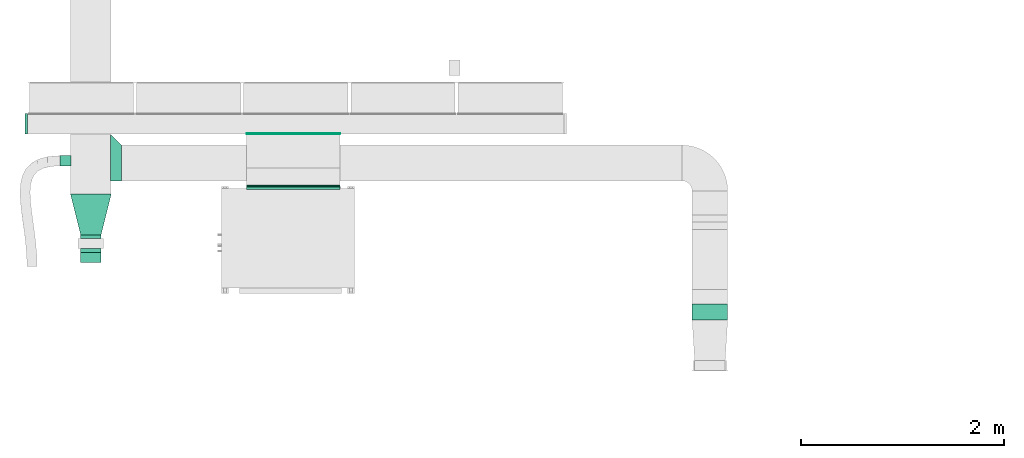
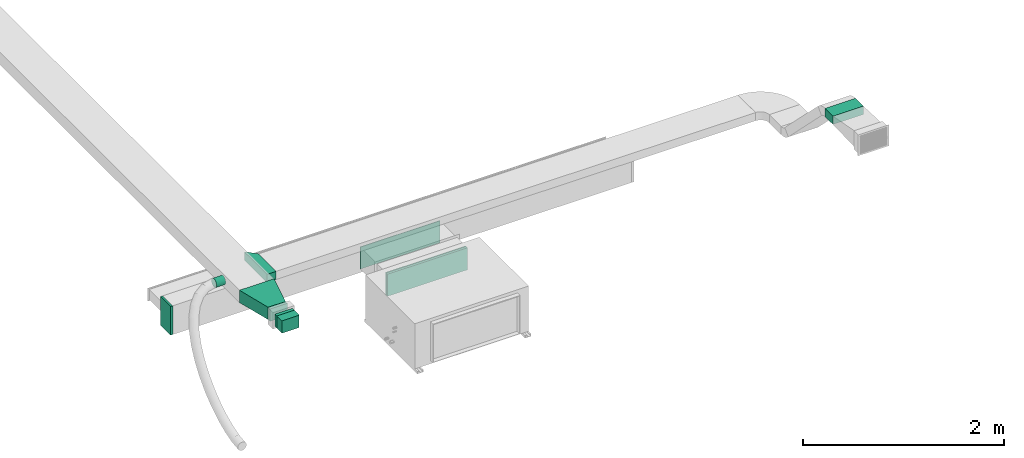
# One storey, part 3 of 15: 6 flow fittings, 4 flow segments, 1 flow terminal.
"""IFC2X3 building model written with IfcOpenShell, lengths in millimetres."""

from ifc_helpers import new_model, entity, si_unit, converted_unit, derived_unit, direction, frame, frame_2d, origin, origin_2d_with_axis, place, context, subcontext, project, spatial, polyline, rectangle, outline, extrude, faceted_brep, source, transform, mapped, material, type_object, type_shapes, element, save


model = new_model("IFC2X3")

# Units and contexts
model_context = context("Model", 3, precision=0.01, world=origin(), true_north=direction((6.123233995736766e-17, 1.0)))
body_context = subcontext(model_context, "Body", "Model", "MODEL_VIEW")
ifc_project = project(units=[si_unit("LENGTHUNIT", "METRE", prefix="MILLI"), converted_unit("PLANEANGLEUNIT", "DEGREE", entity("IfcPlaneAngleMeasure", 0.017453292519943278), si_unit("PLANEANGLEUNIT", "RADIAN"), dimensions=[0, 0, 0, 0, 0, 0, 0]), si_unit("AREAUNIT", "SQUARE_METRE"), derived_unit("THERMALTRANSMITTANCEUNIT", [(si_unit("MASSUNIT", "GRAM", prefix="KILO"), 1), (si_unit("THERMODYNAMICTEMPERATUREUNIT", "KELVIN"), -1), (si_unit("TIMEUNIT", "SECOND"), -3)])], contexts=[model_context])

# Site, building, storey
site_placement = place(None, origin())
site = spatial("IfcSite", under=ifc_project, at=site_placement, Name="Default", CompositionType="ELEMENT")
building_placement = place(site_placement, origin())
building = spatial("IfcBuilding", under=site, at=building_placement, Name="Praça Pedro II, 1301 - Centro (Sul), Teresina - PI, 64001-100", CompositionType="ELEMENT")
storey_placement = place(building_placement, frame((0.0, 0.0, 3020.0)))
storey = spatial("IfcBuildingStorey", under=building, at=storey_placement, Name="1PAV", CompositionType="ELEMENT", Elevation=3020.0)

# Flow segments
duct_segment_type_1 = type_object("IfcDuctSegmentType", Name="Duto retangular:Raios cotovelos / tês", PredefinedType="NOTDEFINED")
flow_segment_1_placement = place(storey_placement, origin())
element("IfcFlowSegment", 1, at=flow_segment_1_placement, inside=storey, type_object=duct_segment_type_1, Name="Duto retangular:Raios cotovelos / tês", ObjectType="Duto retangular:Raios cotovelos / tês", context=body_context, shape_type="SweptSolid", body=[
    extrude(rectangle(XDim=36.5929389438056, YDim=200.0, at=frame_2d((0.0, -5.471179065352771e-13), x_axis=(1.0, 0.0))), frame((6395.350747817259, -67144.26771544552, 1425.0), z_axis=(0.0, 0.0, 1.0), x_axis=(0.0, 1.0, 0.0)), (0.0, 0.0, 1.0), 149.99999999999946),
])
flow_segment_2_placement = place(storey_placement, origin())
element("IfcFlowSegment", 2, at=flow_segment_2_placement, inside=storey, type_object=duct_segment_type_1, Name="Duto retangular:Raios cotovelos / tês", ObjectType="Duto retangular:Raios cotovelos / tês", context=body_context, shape_type="SweptSolid", body=[
    extrude(rectangle(XDim=36.592938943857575, YDim=200.0, at=frame_2d((4.330757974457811e-12, 0.0), x_axis=(1.0, 0.0))), frame((6395.350747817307, -67280.86065438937, 1425.0), z_axis=(0.0, 0.0, 1.0), x_axis=(0.0, 1.0, 0.0)), (0.0, 0.0, 1.0), 150.00000000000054),
])
duct_segment_type_2 = type_object("IfcDuctSegmentType", Name="Duto retangular:Raios cotovelos / torneiras", PredefinedType="NOTDEFINED")
flow_segment_3_placement = place(storey_placement, origin())
element("IfcFlowSegment", 3, at=flow_segment_3_placement, inside=storey, type_object=duct_segment_type_2, Name="Duto retangular:Raios cotovelos / torneiras", ObjectType="Duto retangular:Raios cotovelos / torneiras", context=body_context, shape_type="SweptSolid", body=[
    extrude(rectangle(XDim=157.843638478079, YDim=350.00000000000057, at=frame_2d((4.32720526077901e-12, -1.0800249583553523e-12), x_axis=(1.0, 0.0))), frame((12484.101734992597, -67884.31096207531, 2200.0), z_axis=(0.0, 0.0, 1.0), x_axis=(0.0, -1.0, 0.0)), (0.0, 0.0, 1.0), 99.99999999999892),
])
flow_segment_4_placement = place(storey_placement, origin())
element("IfcFlowSegment", 4, at=flow_segment_4_placement, inside=storey, type_object=duct_segment_type_2, Name="Duto retangular:Raios cotovelos / torneiras", ObjectType="Duto retangular:Raios cotovelos / torneiras", context=body_context, shape_type="SweptSolid", body=[
    extrude(rectangle(XDim=14.99999999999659, YDim=916.9999999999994, at=frame_2d((-8.662848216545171e-12, 0.0), x_axis=(1.0, 0.0))), frame((8386.996797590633, -66646.51222456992, 866.0), z_axis=(0.0, 0.0, 1.0), x_axis=(0.0, 1.0, 0.0)), (0.0, 0.0, 1.0), 267.9999999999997),
])

# Flow fittings
ifc_material = material(Name="<Unnamed>")
duct_fitting_type_1 = type_object("IfcDuctFittingType", Name="M_Tampa retangular:Padrão", PredefinedType="NOTDEFINED", material=ifc_material)
shared_shape_1 = source(origin(), body_context, "Body", "SweptSolid", [
    extrude(rectangle(XDim=24.999999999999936, YDim=200.00000000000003, at=frame_2d((-8.881784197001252e-16, 0.0), x_axis=(1.0, 0.0))), frame((12.500000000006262, 0.0, -175.0)), (0.0, 0.0, 1.0), 350.0),
])
type_shapes(duct_fitting_type_1, [shared_shape_1])
flow_fitting_1_placement = place(storey_placement, frame((5771.54595394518, -66034.01222456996, 1000.0), z_axis=(0.0, 0.0, 1.0), x_axis=(-1.0, 0.0, 0.0)))
element("IfcFlowFitting", 5, at=flow_fitting_1_placement, inside=storey, type_object=duct_fitting_type_1, material=ifc_material, Name="M_Tampa retangular:Padrão", ObjectType="M_Tampa retangular:Padrão", context=body_context, shape_type="MappedRepresentation", body=[
    mapped(shared_shape_1, transform((0.0, 0.0, 0.0), scale=1.0)),
])
duct_fitting_type_2 = type_object("IfcDuctFittingType", Name="M_Encaixe de duto redondo:Padrão", PredefinedType="NOTDEFINED", material=ifc_material)
shared_shape_2 = source(origin(), body_context, "Body", "Brep", [
    faceted_brep([(101.60000000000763, 50.0, 0.0), (101.60000000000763, 48.296291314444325, 12.940952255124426), (101.60000000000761, 43.301270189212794, 25.0), (101.6000000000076, 35.35533905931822, 35.35533905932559), (101.60000000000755, 25.0, 43.30127018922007), (101.60000000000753, 12.94095225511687, 48.29629131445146), (101.6000000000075, 0.0, 50.0), (101.60000000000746, -12.940952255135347, 48.29629131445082), (101.60000000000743, -25.0, 43.30127018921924), (101.6000000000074, -35.35533905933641, 35.355339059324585), (101.60000000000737, -43.301270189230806, 25.0), (101.60000000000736, -48.296291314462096, 12.940952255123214), (101.60000000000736, -50.0, 0.0), (101.60000000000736, -48.29629131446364, -12.94095225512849), (101.60000000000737, -43.301270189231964, -25.0), (101.6000000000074, -35.35533905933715, -35.35533905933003), (101.60000000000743, -25.0, -43.30127018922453), (101.60000000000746, -12.94095225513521, -48.29629131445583), (101.6000000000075, 0.0, -50.0), (101.60000000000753, 12.9409522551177, -48.29629131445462), (101.60000000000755, 25.0, -43.30127018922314), (101.6000000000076, 35.35533905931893, -35.35533905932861), (101.60000000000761, 43.30127018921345, -25.0), (101.60000000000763, 48.2962913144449, -12.940952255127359), (0.0, 12.940952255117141, 48.29629131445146), (-6.0959999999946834, 12.94095225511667, 48.29629131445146), (-6.095999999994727, 0.0, 50.0), (0.0, 0.0, 50.0), (0.0, 25.0, 43.30127018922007), (-6.0959999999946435, 25.0, 43.30127018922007), (0.0, 35.35533905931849, 35.35533905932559), (-6.095999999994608, 35.35533905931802, 35.35533905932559), (0.0, 48.296291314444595, 12.940952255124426), (-6.095999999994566, 48.296291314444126, 12.940952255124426), (-6.095999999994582, 43.3012701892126, 25.0), (0.0, 43.301270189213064, 25.0), (0.0, 50.0, 0.0), (-6.09599999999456, 50.0, 0.0), (0.0, 43.30127018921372, -25.0), (-6.095999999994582, 43.30127018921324, -25.0), (-6.095999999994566, 48.296291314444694, -12.940952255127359), (0.0, 48.29629131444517, -12.940952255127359), (0.0, 35.3553390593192, -35.35533905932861), (-6.095999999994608, 35.35533905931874, -35.35533905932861), (0.0, 12.940952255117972, -48.29629131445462), (-6.0959999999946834, 12.940952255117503, -48.29629131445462), (-6.0959999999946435, 25.0, -43.30127018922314), (0.0, 25.0, -43.30127018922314), (0.0, 0.0, -50.0), (-6.095999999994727, 0.0, -50.0), (0.0, -12.940952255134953, -48.29629131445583), (-6.09599999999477, -12.940952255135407, -48.29629131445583), (0.0, -25.0, -43.30127018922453), (-6.0959999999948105, -25.0, -43.30127018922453), (0.0, -35.35533905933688, -35.35533905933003), (-6.095999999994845, -35.355339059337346, -35.35533905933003), (0.0, -48.29629131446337, -12.94095225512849), (-6.095999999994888, -48.29629131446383, -12.94095225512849), (-6.095999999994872, -43.30127018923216, -25.0), (0.0, -43.301270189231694, -25.0), (0.0, -50.0, 0.0), (-6.095999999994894, -50.0, 0.0), (0.0, -48.296291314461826, 12.940952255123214), (-6.095999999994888, -48.296291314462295, 12.940952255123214), (0.0, -43.30127018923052, 25.0), (-6.095999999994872, -43.301270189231, 25.0), (0.0, -35.35533905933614, 35.355339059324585), (-6.095999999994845, -35.35533905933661, 35.355339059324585), (0.0, -12.940952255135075, 48.29629131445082), (-6.09599999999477, -12.940952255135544, 48.29629131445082), (-6.0959999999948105, -25.0, 43.30127018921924), (0.0, -25.0, 43.30127018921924)], [[[0, 1, 2, 3, 4, 5, 6, 7, 8, 9, 10, 11, 12, 13, 14, 15, 16, 17, 18, 19, 20, 21, 22, 23]], [[24, 25, 26, 27, 6, 5]], [[28, 29, 25, 24, 5, 4]], [[4, 3, 30, 31, 29, 28]], [[32, 33, 34, 35, 2, 1]], [[36, 37, 33, 32, 1, 0]], [[3, 2, 35, 34, 31, 30]], [[23, 22, 38, 39, 40, 41]], [[0, 23, 41, 40, 37, 36]], [[22, 21, 42, 43, 39, 38]], [[44, 45, 46, 47, 20, 19]], [[48, 49, 45, 44, 19, 18]], [[21, 20, 47, 46, 43, 42]], [[50, 51, 49, 48, 18, 17]], [[52, 53, 51, 50, 17, 16]], [[16, 15, 54, 55, 53, 52]], [[56, 57, 58, 59, 14, 13]], [[60, 61, 57, 56, 13, 12]], [[15, 14, 59, 58, 55, 54]], [[62, 63, 61, 60, 12, 11]], [[64, 65, 63, 62, 11, 10]], [[10, 9, 66, 67, 65, 64]], [[68, 69, 70, 71, 8, 7]], [[27, 26, 69, 68, 7, 6]], [[9, 8, 71, 70, 67, 66]], [[49, 51, 53, 55, 58, 57, 61, 63, 65, 67, 70, 69, 26, 25, 29, 31, 34, 33, 37, 40, 39, 43, 46, 45]]]),
])
type_shapes(duct_fitting_type_2, [shared_shape_2])
flow_fitting_2_placement = place(storey_placement, frame((6195.350747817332, -66397.58410106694, 1500.0), z_axis=(0.0, 0.0, -1.0), x_axis=(-1.0, 0.0, 0.0)))
element("IfcFlowFitting", 6, at=flow_fitting_2_placement, inside=storey, type_object=duct_fitting_type_2, material=ifc_material, Name="M_Encaixe de duto redondo:Padrão", ObjectType="M_Encaixe de duto redondo:Padrão", context=body_context, shape_type="MappedRepresentation", body=[
    mapped(shared_shape_2, transform((0.0, 0.0, 0.0), scale=1.0)),
])

# Flow terminal
air_terminal_type = type_object("IfcAirTerminalType", Name="grelha genérica:grelha genérica", PredefinedType="NOTDEFINED", material=ifc_material)
shared_shape_3 = source(origin(), body_context, "Body", "SweptSolid", [
    extrude(rectangle(XDim=100.0, YDim=200.0, at=origin_2d_with_axis()), frame((50.0, 0.0, -75.0), z_axis=(0.0, 0.0, 1.0), x_axis=(-1.0, 0.0, 0.0)), (0.0, 0.0, 1.0), 150.0),
])
type_shapes(air_terminal_type, [shared_shape_3])
flow_terminal_placement = place(storey_placement, frame((6395.350747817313, -67399.15712386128, 1500.0), z_axis=(0.0, 0.0, 1.0), x_axis=(0.0, 1.0, 0.0)))
element("IfcFlowTerminal", 7, at=flow_terminal_placement, inside=storey, type_object=air_terminal_type, material=ifc_material, Name="grelha genérica:grelha genérica", ObjectType="grelha genérica:grelha genérica", context=body_context, shape_type="MappedRepresentation", body=[
    mapped(shared_shape_3, transform((0.0, 0.0, 0.0), scale=1.0)),
])

# Flow fittings
duct_fitting_type_3 = type_object("IfcDuctFittingType", Name="M_Rectangular Tap - Beveled:Standard", PredefinedType="NOTDEFINED", material=ifc_material)
shared_shape_4 = source(origin(), body_context, "Body", "SweptSolid", [
    extrude(outline(polyline([(-62.43839999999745, -250.0), (43.65760000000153, -250.0), (43.65760000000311, 200.0), (37.561600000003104, 200.0), (-62.438399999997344, 100.0), (-62.43839999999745, -250.0)])), frame((37.56160000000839, -75.0, -50.0), z_axis=(0.0, 0.0, 1.0), x_axis=(-1.0, 0.0, 0.0)), (0.0, 0.0, 1.0), 99.99999999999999),
])
type_shapes(duct_fitting_type_3, [shared_shape_4])
flow_fitting_3_placement = place(storey_placement, frame((6595.35074781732, -66419.15712386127, 1500.0), z_axis=(0.0, 0.0, -1.0), x_axis=(1.0, 0.0, 0.0)))
element("IfcFlowFitting", 8, at=flow_fitting_3_placement, inside=storey, type_object=duct_fitting_type_3, material=ifc_material, Name="M_Rectangular Tap - Beveled:Standard", ObjectType="M_Rectangular Tap - Beveled:Standard", context=body_context, shape_type="MappedRepresentation", body=[
    mapped(shared_shape_4, transform((0.0, 0.0, 0.0), scale=1.0)),
])
duct_fitting_type_4 = type_object("IfcDuctFittingType", Name="M_Rectangular Transition - L:400 mm (L)", PredefinedType="NOTDEFINED", material=ifc_material)
shared_shape_5 = source(origin(), body_context, "Body", "SweptSolid", [
    extrude(outline(polyline([(-169.77493752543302, -145.52137502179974), (242.53562503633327, -145.52137502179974), (145.52137502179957, 242.53562503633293), (-218.2820625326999, 48.50712500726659), (-169.77493752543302, -145.52137502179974)])), frame((200.0, 0.0, -75.0), z_axis=(0.0, 0.0, 1.0), x_axis=(0.9701425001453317, -0.24253562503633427, 0.0)), (0.0, 0.0, 1.0), 149.99999999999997),
])
type_shapes(duct_fitting_type_4, [shared_shape_5])
flow_fitting_4_placement = place(storey_placement, frame((6395.350747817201, -67125.97124597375, 1500.0), z_axis=(0.0, 0.0, 1.0), x_axis=(0.0, 1.0, 0.0)))
element("IfcFlowFitting", 9, at=flow_fitting_4_placement, inside=storey, type_object=duct_fitting_type_4, material=ifc_material, Name="M_Rectangular Transition - L:400 mm (L)", ObjectType="M_Rectangular Transition - L:400 mm (L)", context=body_context, shape_type="MappedRepresentation", body=[
    mapped(shared_shape_5, transform((0.0, 0.0, 0.0), scale=1.0)),
])
duct_fitting_type_5 = type_object("IfcDuctFittingType", Name="M_Rectangular Tap - Beveled:Standard", PredefinedType="NOTDEFINED", material=ifc_material)
shared_shape_6 = source(origin(), body_context, "Body", "SweptSolid", [
    extrude(outline(polyline([(-3.0383999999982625, -550.6), (4.057600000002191, -550.6), (4.057600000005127, 367.4), (-2.0383999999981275, 367.4), (-3.0383999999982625, 366.40000000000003), (-3.0383999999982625, -550.6)])), frame((-2.0383999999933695, -92.10000000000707, -134.0), z_axis=(0.0, 0.0, 1.0), x_axis=(-1.0, 0.0, 0.0)), (0.0, 0.0, 1.0), 268.0),
])
type_shapes(duct_fitting_type_5, [shared_shape_6])
flow_fitting_5_placement = place(storey_placement, frame((8386.996797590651, -66134.01222456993, 1000.0), z_axis=(0.0, 0.0, -1.0), x_axis=(0.0, -1.0, 0.0)))
element("IfcFlowFitting", 10, at=flow_fitting_5_placement, inside=storey, type_object=duct_fitting_type_5, material=ifc_material, Name="M_Rectangular Tap - Beveled:Standard", ObjectType="M_Rectangular Tap - Beveled:Standard", context=body_context, shape_type="MappedRepresentation", body=[
    mapped(shared_shape_6, transform((0.0, 0.0, 0.0), scale=1.0)),
])
duct_fitting_type_6 = type_object("IfcDuctFittingType", Name="M_Tampa retangular:Padrão", PredefinedType="NOTDEFINED", material=ifc_material)
shared_shape_7 = source(origin(), body_context, "Body", "SweptSolid", [
    extrude(rectangle(XDim=24.99999999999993, YDim=917.0, at=origin_2d_with_axis()), frame((12.500000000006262, 0.0, -134.0)), (0.0, 0.0, 1.0), 268.0),
])
type_shapes(duct_fitting_type_6, [shared_shape_7])
flow_fitting_6_placement = place(storey_placement, frame((8386.996797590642, -66654.0122245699, 1000.0), z_axis=(0.0, 0.0, 1.0), x_axis=(0.0, -1.0, 0.0)))
element("IfcFlowFitting", 11, at=flow_fitting_6_placement, inside=storey, type_object=duct_fitting_type_6, material=ifc_material, Name="M_Tampa retangular:Padrão", ObjectType="M_Tampa retangular:Padrão", context=body_context, shape_type="MappedRepresentation", body=[
    mapped(shared_shape_7, transform((0.0, 0.0, 0.0), scale=1.0)),
])

save(model, "model.ifc")
